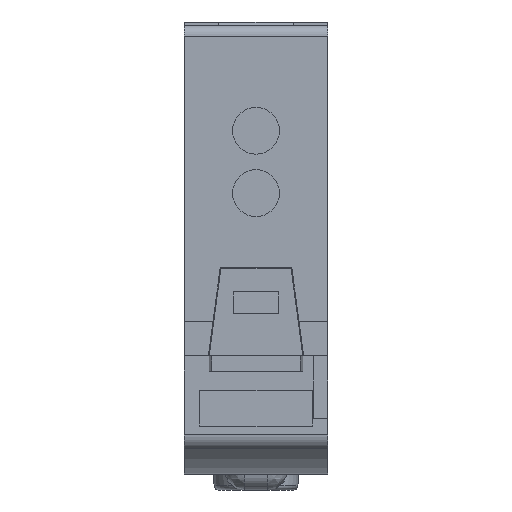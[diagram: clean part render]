
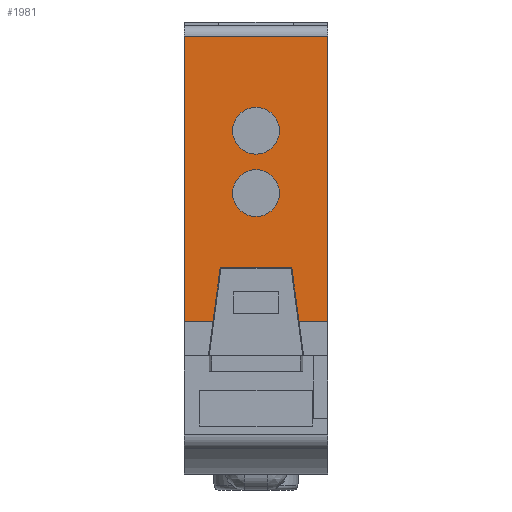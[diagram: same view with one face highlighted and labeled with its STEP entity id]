
A CAD part, left-side view. The second image highlights one B-rep face of the part: STEP entity #1981.
In plain terms, the highlighted planar face has unit normal (-1, 0, 0).
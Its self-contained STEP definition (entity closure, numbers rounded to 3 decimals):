
#5=DIRECTION('',(0.,0.,1.));
#6=VECTOR('',#5,18.3);
#7=CARTESIAN_POINT('',(-21.,-4.6,-16.));
#8=LINE('',#7,#6);
#405=DIRECTION('',(0.,1.,0.));
#406=VECTOR('',#405,1.843);
#407=CARTESIAN_POINT('',(-21.,-4.6,-16.));
#408=LINE('',#407,#406);
#409=DIRECTION('',(0.,0.133,0.991));
#410=VECTOR('',#409,3.481);
#411=CARTESIAN_POINT('',(-21.,-2.757,-16.));
#412=LINE('',#411,#410);
#413=DIRECTION('',(0.,1.,0.));
#414=VECTOR('',#413,4.589);
#415=CARTESIAN_POINT('',(-21.,-2.295,-12.55));
#416=LINE('',#415,#414);
#417=DIRECTION('',(0.,0.133,-0.991));
#418=VECTOR('',#417,3.481);
#419=CARTESIAN_POINT('',(-21.,2.295,-12.55));
#420=LINE('',#419,#418);
#421=DIRECTION('',(0.,1.,0.));
#422=VECTOR('',#421,1.843);
#423=CARTESIAN_POINT('',(-21.,2.757,-16.));
#424=LINE('',#423,#422);
#425=DIRECTION('',(0.,-1.,0.));
#426=VECTOR('',#425,9.2);
#427=CARTESIAN_POINT('',(-21.,4.6,2.3));
#428=LINE('',#427,#426);
#429=CARTESIAN_POINT('',(-21.,0.,-7.77));
#430=DIRECTION('',(-1.,0.,0.));
#431=DIRECTION('',(0.,1.,0.));
#432=AXIS2_PLACEMENT_3D('',#429,#430,#431);
#434=CARTESIAN_POINT('',(-21.,0.,-7.77));
#435=DIRECTION('',(-1.,0.,0.));
#436=DIRECTION('',(0.,-1.,0.));
#437=AXIS2_PLACEMENT_3D('',#434,#435,#436);
#439=CARTESIAN_POINT('',(-21.,0.,-3.77));
#440=DIRECTION('',(-1.,0.,0.));
#441=DIRECTION('',(0.,1.,0.));
#442=AXIS2_PLACEMENT_3D('',#439,#440,#441);
#444=CARTESIAN_POINT('',(-21.,0.,-3.77));
#445=DIRECTION('',(-1.,0.,0.));
#446=DIRECTION('',(0.,-1.,0.));
#447=AXIS2_PLACEMENT_3D('',#444,#445,#446);
#535=DIRECTION('',(0.,0.,1.));
#536=VECTOR('',#535,18.3);
#537=CARTESIAN_POINT('',(-21.,4.6,-16.));
#538=LINE('',#537,#536);
#1049=CARTESIAN_POINT('',(-21.,-2.295,-12.55));
#1050=CARTESIAN_POINT('',(-21.,2.295,-12.55));
#1051=VERTEX_POINT('',#1049);
#1052=VERTEX_POINT('',#1050);
#1058=CARTESIAN_POINT('',(-21.,-4.6,2.3));
#1060=VERTEX_POINT('',#1058);
#1061=CARTESIAN_POINT('',(-21.,4.6,2.3));
#1062=VERTEX_POINT('',#1061);
#1153=CARTESIAN_POINT('',(-21.,-4.6,-16.));
#1155=VERTEX_POINT('',#1153);
#1157=CARTESIAN_POINT('',(-21.,4.6,-16.));
#1159=VERTEX_POINT('',#1157);
#1161=CARTESIAN_POINT('',(-21.,-2.757,-16.));
#1162=VERTEX_POINT('',#1161);
#1163=CARTESIAN_POINT('',(-21.,2.757,-16.));
#1164=VERTEX_POINT('',#1163);
#1177=CARTESIAN_POINT('',(-21.,1.5,-7.77));
#1178=CARTESIAN_POINT('',(-21.,-1.5,-7.77));
#1179=VERTEX_POINT('',#1177);
#1180=VERTEX_POINT('',#1178);
#1181=CARTESIAN_POINT('',(-21.,1.5,-3.77));
#1182=CARTESIAN_POINT('',(-21.,-1.5,-3.77));
#1183=VERTEX_POINT('',#1181);
#1184=VERTEX_POINT('',#1182);
#1950=CARTESIAN_POINT('',(-21.,-4.6,-25.8));
#1951=DIRECTION('',(-1.,0.,0.));
#1952=DIRECTION('',(0.,0.,1.));
#1953=AXIS2_PLACEMENT_3D('',#1950,#1951,#1952);
#1954=PLANE('',#1953);
#1955=ORIENTED_EDGE('',*,*,#1443,.T.);
#1957=ORIENTED_EDGE('',*,*,#1956,.T.);
#1959=ORIENTED_EDGE('',*,*,#1958,.T.);
#1961=ORIENTED_EDGE('',*,*,#1960,.T.);
#1962=ORIENTED_EDGE('',*,*,#1435,.T.);
#1964=ORIENTED_EDGE('',*,*,#1963,.T.);
#1965=ORIENTED_EDGE('',*,*,#1942,.T.);
#1966=ORIENTED_EDGE('',*,*,#1372,.F.);
#1967=EDGE_LOOP('',(#1955,#1957,#1959,#1961,#1962,#1964,#1965,#1966));
#1968=FACE_OUTER_BOUND('',#1967,.F.);
#1970=ORIENTED_EDGE('',*,*,#1969,.T.);
#1972=ORIENTED_EDGE('',*,*,#1971,.T.);
#1973=EDGE_LOOP('',(#1970,#1972));
#1974=FACE_BOUND('',#1973,.F.);
#1976=ORIENTED_EDGE('',*,*,#1975,.T.);
#1978=ORIENTED_EDGE('',*,*,#1977,.T.);
#1979=EDGE_LOOP('',(#1976,#1978));
#1980=FACE_BOUND('',#1979,.F.);
#1981=ADVANCED_FACE('',(#1968,#1974,#1980),#1954,.T.);
#433=CIRCLE('',#432,1.5);
#438=CIRCLE('',#437,1.5);
#443=CIRCLE('',#442,1.5);
#448=CIRCLE('',#447,1.5);
#1372=EDGE_CURVE('',#1155,#1060,#8,.T.);
#1435=EDGE_CURVE('',#1164,#1159,#424,.T.);
#1443=EDGE_CURVE('',#1155,#1162,#408,.T.);
#1942=EDGE_CURVE('',#1062,#1060,#428,.T.);
#1956=EDGE_CURVE('',#1162,#1051,#412,.T.);
#1958=EDGE_CURVE('',#1051,#1052,#416,.T.);
#1960=EDGE_CURVE('',#1052,#1164,#420,.T.);
#1963=EDGE_CURVE('',#1159,#1062,#538,.T.);
#1969=EDGE_CURVE('',#1179,#1180,#433,.T.);
#1971=EDGE_CURVE('',#1180,#1179,#438,.T.);
#1975=EDGE_CURVE('',#1183,#1184,#443,.T.);
#1977=EDGE_CURVE('',#1184,#1183,#448,.T.);
